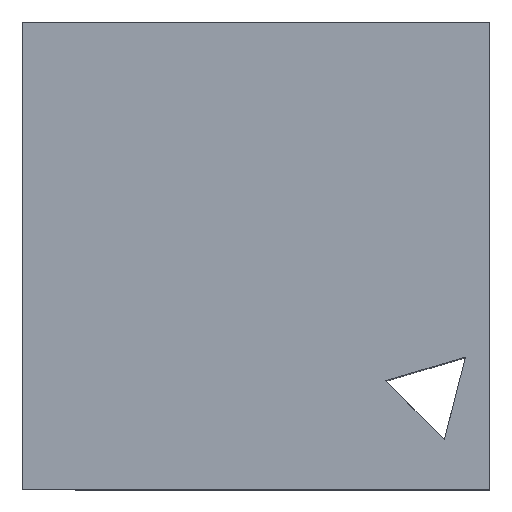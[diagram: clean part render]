
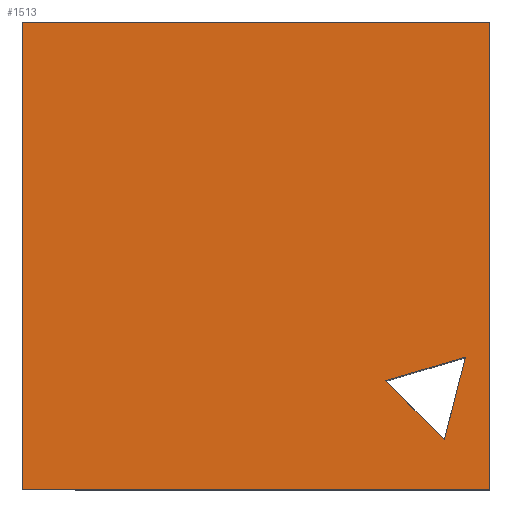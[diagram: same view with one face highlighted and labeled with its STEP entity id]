
A CAD part, top view. The second image highlights one B-rep face of the part: STEP entity #1513.
In plain terms, the highlighted planar face has unit normal (0, 0, 1).
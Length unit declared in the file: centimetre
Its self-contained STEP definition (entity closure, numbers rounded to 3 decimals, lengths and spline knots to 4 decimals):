
#7 = DIRECTION ( 'NONE',  ( -0.707, 0.707, 0. ) ) ;
#37 = DIRECTION ( 'NONE',  ( 0.959, 0.284, 0. ) ) ;
#61 = ORIENTED_EDGE ( 'NONE', *, *, #1131, .T. ) ;
#68 = EDGE_LOOP ( 'NONE', ( #1858, #1190, #822, #1621 ) ) ;
#79 = VECTOR ( 'NONE', #921, 100. ) ;
#87 = VECTOR ( 'NONE', #509, 100. ) ;
#137 = VECTOR ( 'NONE', #1907, 100. ) ;
#148 = LINE ( 'NONE', #743, #497 ) ;
#153 = LINE ( 'NONE', #1080, #1079 ) ;
#220 = CARTESIAN_POINT ( 'NONE',  ( 1000., 1000., 1000. ) ) ;
#225 = EDGE_CURVE ( 'NONE', #1628, #1300, #1193, .T. ) ;
#296 = CARTESIAN_POINT ( 'NONE',  ( 777.396, 232.2072, 1000. ) ) ;
#399 = VERTEX_POINT ( 'NONE', #1134 ) ;
#401 = EDGE_CURVE ( 'NONE', #1568, #1628, #1432, .T. ) ;
#497 = VECTOR ( 'NONE', #1347, 100. ) ;
#509 = DIRECTION ( 'NONE',  ( 0., -1., 0. ) ) ;
#511 = DIRECTION ( 'NONE',  ( 0., 0., 1. ) ) ;
#674 = CARTESIAN_POINT ( 'NONE',  ( 0., 0., 1000. ) ) ;
#743 = CARTESIAN_POINT ( 'NONE',  ( 0., 1000., 1000. ) ) ;
#756 = LINE ( 'NONE', #296, #1339 ) ;
#764 = VERTEX_POINT ( 'NONE', #1257 ) ;
#808 = PLANE ( 'NONE',  #1081 ) ;
#822 = ORIENTED_EDGE ( 'NONE', *, *, #867, .T. ) ;
#835 = VERTEX_POINT ( 'NONE', #220 ) ;
#867 = EDGE_CURVE ( 'NONE', #1300, #835, #1600, .T. ) ;
#882 = CARTESIAN_POINT ( 'NONE',  ( 1000., 1000., 1000. ) ) ;
#893 = CARTESIAN_POINT ( 'NONE',  ( 903.2634, 106.3398, 1000. ) ) ;
#921 = DIRECTION ( 'NONE',  ( -0.246, -0.969, 0. ) ) ;
#935 = CARTESIAN_POINT ( 'NONE',  ( 0., 0., 1000. ) ) ;
#1012 = VECTOR ( 'NONE', #1487, 100. ) ;
#1061 = EDGE_CURVE ( 'NONE', #1548, #764, #1244, .T. ) ;
#1079 = VECTOR ( 'NONE', #37, 100. ) ;
#1080 = CARTESIAN_POINT ( 'NONE',  ( 948.1055, 282.8629, 1000. ) ) ;
#1081 = AXIS2_PLACEMENT_3D ( 'NONE', #935, #511, #1262 ) ;
#1092 = EDGE_CURVE ( 'NONE', #399, #1548, #153, .T. ) ;
#1093 = FACE_BOUND ( 'NONE', #1172, .T. ) ;
#1131 = EDGE_CURVE ( 'NONE', #764, #399, #756, .T. ) ;
#1134 = CARTESIAN_POINT ( 'NONE',  ( 777.396, 232.2072, 1000. ) ) ;
#1137 = CARTESIAN_POINT ( 'NONE',  ( 0., 1000., 1000. ) ) ;
#1172 = EDGE_LOOP ( 'NONE', ( #1790, #61, #1655 ) ) ;
#1190 = ORIENTED_EDGE ( 'NONE', *, *, #225, .T. ) ;
#1193 = LINE ( 'NONE', #1318, #137 ) ;
#1244 = LINE ( 'NONE', #893, #79 ) ;
#1257 = CARTESIAN_POINT ( 'NONE',  ( 903.2634, 106.3398, 1000. ) ) ;
#1262 = DIRECTION ( 'NONE',  ( 1., 0., 0. ) ) ;
#1290 = CARTESIAN_POINT ( 'NONE',  ( 948.1055, 282.8629, 1000. ) ) ;
#1300 = VERTEX_POINT ( 'NONE', #1311 ) ;
#1311 = CARTESIAN_POINT ( 'NONE',  ( 1000., 0., 1000. ) ) ;
#1318 = CARTESIAN_POINT ( 'NONE',  ( 0., 0., 1000. ) ) ;
#1339 = VECTOR ( 'NONE', #7, 100. ) ;
#1347 = DIRECTION ( 'NONE',  ( -1., 0., 0. ) ) ;
#1406 = CARTESIAN_POINT ( 'NONE',  ( 0., 1000., 1000. ) ) ;
#1432 = LINE ( 'NONE', #1406, #87 ) ;
#1487 = DIRECTION ( 'NONE',  ( 0., 1., 0. ) ) ;
#1513 = ADVANCED_FACE ( 'NONE', ( #1093, #1547 ), #808, .T. ) ;
#1547 = FACE_OUTER_BOUND ( 'NONE', #68, .T. ) ;
#1548 = VERTEX_POINT ( 'NONE', #1290 ) ;
#1568 = VERTEX_POINT ( 'NONE', #1137 ) ;
#1600 = LINE ( 'NONE', #882, #1012 ) ;
#1621 = ORIENTED_EDGE ( 'NONE', *, *, #1846, .T. ) ;
#1628 = VERTEX_POINT ( 'NONE', #674 ) ;
#1655 = ORIENTED_EDGE ( 'NONE', *, *, #1092, .T. ) ;
#1790 = ORIENTED_EDGE ( 'NONE', *, *, #1061, .T. ) ;
#1846 = EDGE_CURVE ( 'NONE', #835, #1568, #148, .T. ) ;
#1858 = ORIENTED_EDGE ( 'NONE', *, *, #401, .T. ) ;
#1907 = DIRECTION ( 'NONE',  ( 1., 0., 0. ) ) ;
